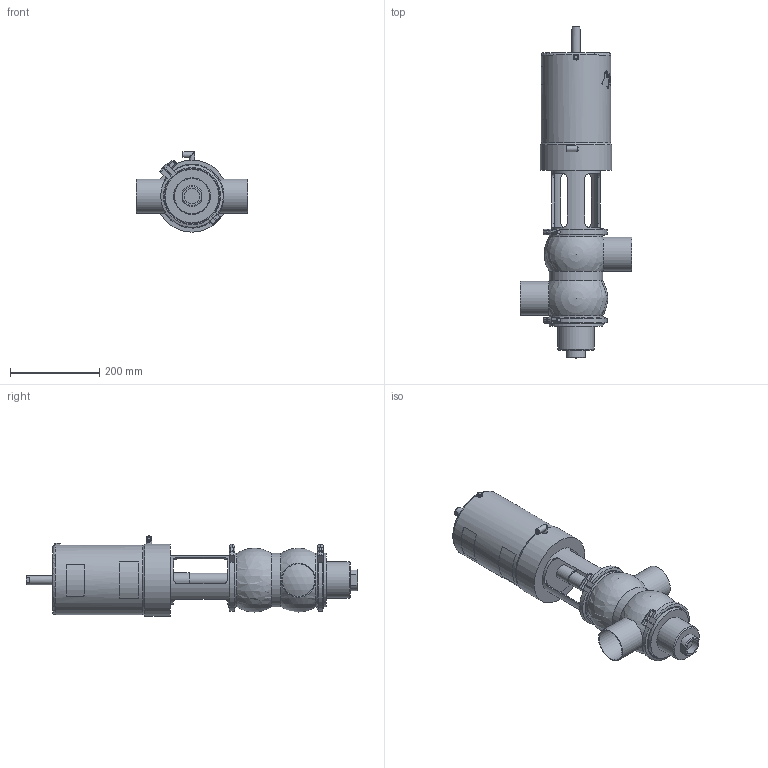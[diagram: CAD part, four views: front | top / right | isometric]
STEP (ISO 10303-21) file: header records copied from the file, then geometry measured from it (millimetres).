
FILE_DESCRIPTION (( 'STEP AP214' ), '1' );
FILE_NAME ('INNOVA S DC-180 W OD 3_10.251.16.0009.STEP', '2024-08-20T10:25:55', ( '' ), ( '' ), 'SwSTEP 2.0', 'SolidWorks 2023', '' );
FILE_SCHEMA (( 'AUTOMOTIVE_DESIGN' ));
Length unit declared in the file: millimetre
Products named in the file (6): 10.251.15.0002_DN 3"; 10.251.15.0001_OD 3"; 10.251.15.0011_OD 3"; INNOVA S DC-180 W OD 3_10.251.16.0009; 10.240.15.0001_DN 080; 10.250.15.0002_Type S T2
Assembly tree (6 placements, depth 2):
  INNOVA S DC-180 W OD 3_10.251.16.0009
    10.251.15.0001_OD 3"
    10.250.15.0002_Type S T2
    10.251.15.0011_OD 3"
    10.240.15.0001_DN 080  x2
    10.251.15.0002_DN 3"
Bounding box: 250 x 743.1 x 179.5 mm (x, y, z)
Volume: 8776200.8 mm3; surface area: 539172.9 mm2
Topology: 6 solids, 6 shells, 419 faces, 1084 edges, 705 vertices
Faces by surface type: plane 200, cylinder 107, bspline 80, cone 27, sphere 4, torus 1
Full cylindrical faces by diameter (mm): 4.2 x2, 5 x1, 6 x1, 6.15 x1, 8 x4, 8.5 x1, 10.5 x2, 12.5 x6, 20 x1, 30.5 x1, 32 x1, 35 x1, 72.9 x2, 76.2 x2, 82 x1, 109 x1, 109.1 x1, 120 x4, 132 x4, 156 x1, 161 x1
Entity records: 22075 total; most frequent: CARTESIAN_POINT 12091, ORIENTED_EDGE 1706, DIRECTION 1327, EDGE_CURVE 853, VERTEX_POINT 585, AXIS2_PLACEMENT_3D 508, EDGE_LOOP 450, FACE_OUTER_BOUND 401
